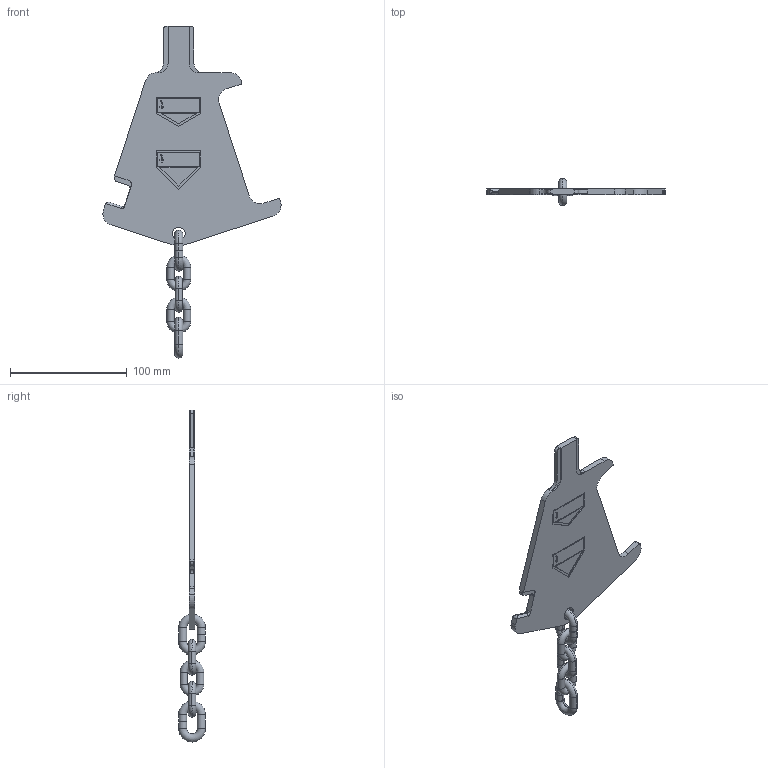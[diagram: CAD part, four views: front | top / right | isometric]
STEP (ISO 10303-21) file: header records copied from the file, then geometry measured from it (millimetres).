
FILE_DESCRIPTION((''),'2;1');
FILE_NAME('4VKZA20_BEIDS','2005-01-19T',('jakubetz'),(''),'PRO/ENGINEER BY PARAMETRIC TECHNOLOGY CORPORATION, 2001400','PRO/ENGINEER BY PARAMETRIC TECHNOLOGY CORPORATION, 2001400','');
FILE_SCHEMA(('CONFIG_CONTROL_DESIGN'));
Length unit declared in the file: millimetre
Products named in the file (1): 4VKZA20_BEIDS
Bounding box: 152.61 x 23.1 x 284.48 mm (x, y, z)
Volume: 84273.2 mm3; surface area: 40521.4 mm2
Topology: 6 solids, 6 shells, 213 faces, 546 edges, 350 vertices
Faces by surface type: plane 142, cylinder 51, torus 20
Entity records: 6629 total; most frequent: CARTESIAN_POINT 1384, ORIENTED_EDGE 1092, DIRECTION 1044, EDGE_CURVE 546, VECTOR 422, LINE 422, VERTEX_POINT 350, AXIS2_PLACEMENT_3D 311
